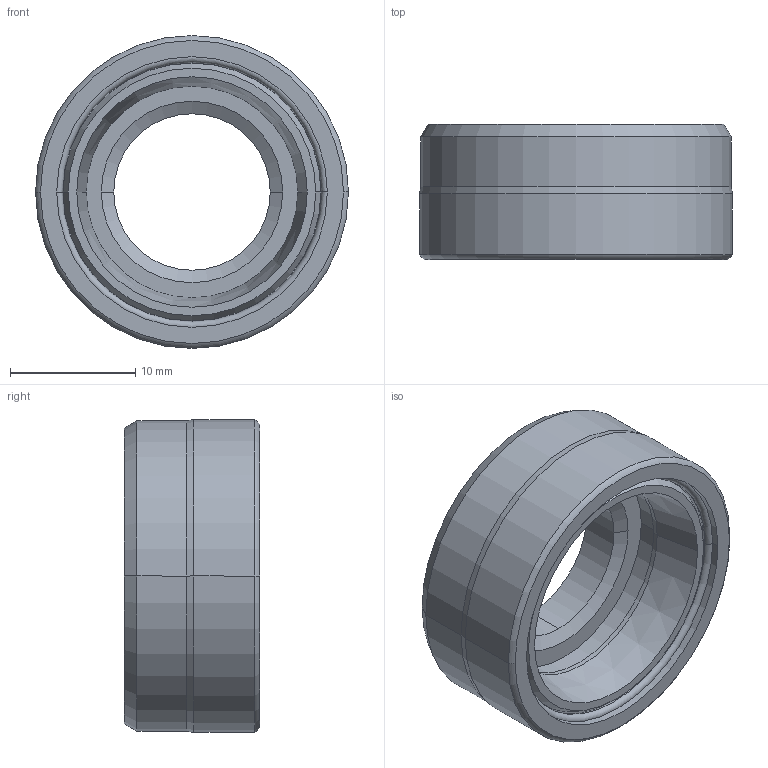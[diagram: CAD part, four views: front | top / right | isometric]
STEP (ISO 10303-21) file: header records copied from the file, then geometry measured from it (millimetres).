
FILE_DESCRIPTION (( 'STEP AP203' ), '1' );
FILE_NAME ('VXF0100-B.STEP', '2014-11-25T04:58:24', ( '0393' ), ( 'Hewlett-Packard Company' ), 'SwSTEP 2.0', 'SolidWorks 2013', '' );
FILE_SCHEMA (( 'CONFIG_CONTROL_DESIGN' ));
Length unit declared in the file: millimetre
Products named in the file (1): VXF0100-B
Bounding box: 25 x 10.8 x 25 mm (x, y, z)
Volume: 2996.2 mm3; surface area: 2126.4 mm2
Topology: 1 solids, 1 shells, 36 faces, 74 edges, 44 vertices
Faces by surface type: cone 12, cylinder 12, torus 6, plane 6
Entity records: 1041 total; most frequent: DIRECTION 198, CARTESIAN_POINT 155, ORIENTED_EDGE 148, AXIS2_PLACEMENT_3D 87, EDGE_CURVE 74, CIRCLE 50, VERTEX_POINT 44, EDGE_LOOP 42
